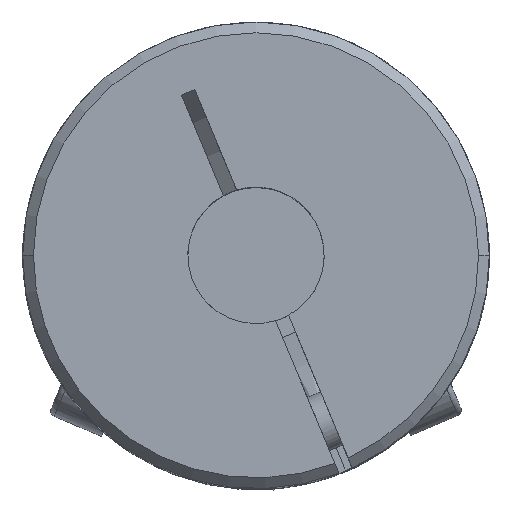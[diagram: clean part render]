
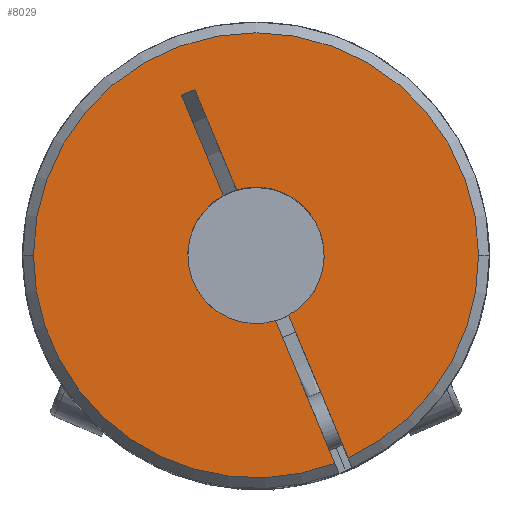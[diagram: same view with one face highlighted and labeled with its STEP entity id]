
A CAD part, top view. The second image highlights one B-rep face of the part: STEP entity #8029.
In plain terms, the highlighted planar face has unit normal (0, 0, 1).
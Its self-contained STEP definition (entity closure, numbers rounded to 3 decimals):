
#2645=CARTESIAN_POINT('',(0.,0.,45.04));
#2646=DIRECTION('',(0.,0.,-1.));
#2647=DIRECTION('',(0.285,-0.959,0.));
#2648=AXIS2_PLACEMENT_3D('',#2645,#2646,#2647);
#2657=CARTESIAN_POINT('',(0.,0.,45.04));
#2658=DIRECTION('',(0.,0.,-1.));
#2659=DIRECTION('',(-0.285,0.959,0.));
#2660=AXIS2_PLACEMENT_3D('',#2657,#2658,#2659);
#2703=DIRECTION('',(0.384,-0.923,0.));
#2704=VECTOR('',#2703,21.537);
#2705=CARTESIAN_POINT('',(4.554,-8.338,45.04));
#2706=LINE('',#2705,#2704);
#2707=DIRECTION('',(0.384,-0.923,0.));
#2708=VECTOR('',#2707,15.139);
#2709=CARTESIAN_POINT('',(-8.524,23.082,45.04));
#2710=LINE('',#2709,#2708);
#2824=CARTESIAN_POINT('',(0.,0.,45.04));
#2825=DIRECTION('',(0.,0.,-1.));
#2826=DIRECTION('',(0.354,-0.935,0.));
#2827=AXIS2_PLACEMENT_3D('',#2824,#2825,#2826);
#2829=CARTESIAN_POINT('',(0.,0.,45.04));
#2830=DIRECTION('',(0.,0.,-1.));
#2831=DIRECTION('',(-1.,0.,0.));
#2832=AXIS2_PLACEMENT_3D('',#2829,#2830,#2831);
#2834=CARTESIAN_POINT('',(0.,0.,45.04));
#2835=DIRECTION('',(0.,0.,1.));
#2836=DIRECTION('',(0.414,-0.91,0.));
#2837=AXIS2_PLACEMENT_3D('',#2834,#2835,#2836);
#2839=DIRECTION('',(0.923,0.384,0.));
#2840=VECTOR('',#2839,2.);
#2841=CARTESIAN_POINT('',(-10.371,22.314,45.04));
#2842=LINE('',#2841,#2840);
#2862=DIRECTION('',(-0.384,0.923,0.));
#2863=VECTOR('',#2862,21.537);
#2864=CARTESIAN_POINT('',(10.983,-28.989,45.04));
#2865=LINE('',#2864,#2863);
#2866=DIRECTION('',(-0.384,0.923,0.));
#2867=VECTOR('',#2866,15.139);
#2868=CARTESIAN_POINT('',(-4.554,8.338,45.04));
#2869=LINE('',#2868,#2867);
#3365=CARTESIAN_POINT('',(10.983,-28.989,45.04));
#4352=CARTESIAN_POINT('',(-10.371,22.314,45.04));
#4353=CARTESIAN_POINT('',(-8.524,23.082,45.04));
#4354=VERTEX_POINT('',#4352);
#4355=VERTEX_POINT('',#4353);
#4578=CARTESIAN_POINT('',(31.,0.,45.04));
#4579=VERTEX_POINT('',#4578);
#4580=CARTESIAN_POINT('',(-31.,0.,
45.04));
#4581=VERTEX_POINT('',#4580);
#4584=VERTEX_POINT('',#3365);
#4791=CARTESIAN_POINT('',(12.829,-28.221,45.04));
#4792=VERTEX_POINT('',#4791);
#5165=CARTESIAN_POINT('',(4.554,-8.338,45.04));
#5167=VERTEX_POINT('',#5165);
#5169=CARTESIAN_POINT('',(2.707,-9.106,45.04));
#5171=VERTEX_POINT('',#5169);
#5172=CARTESIAN_POINT('',(-4.554,8.338,45.04));
#5173=VERTEX_POINT('',#5172);
#5174=CARTESIAN_POINT('',(-2.707,9.106,45.04));
#5175=VERTEX_POINT('',#5174);
#8008=CARTESIAN_POINT('',(0.,0.,45.04));
#8009=DIRECTION('',(0.,0.,1.));
#8010=DIRECTION('',(1.,0.,0.));
#8011=AXIS2_PLACEMENT_3D('',#8008,#8009,#8010);
#8012=PLANE('',#8011);
#8013=ORIENTED_EDGE('',*,*,#7806,.F.);
#8015=ORIENTED_EDGE('',*,*,#8014,.F.);
#8017=ORIENTED_EDGE('',*,*,#8016,.T.);
#8018=ORIENTED_EDGE('',*,*,#7999,.T.);
#8019=ORIENTED_EDGE('',*,*,#7989,.F.);
#8020=ORIENTED_EDGE('',*,*,#7847,.F.);
#8021=ORIENTED_EDGE('',*,*,#7814,.F.);
#8022=ORIENTED_EDGE('',*,*,#7868,.F.);
#8024=ORIENTED_EDGE('',*,*,#8023,.F.);
#8026=ORIENTED_EDGE('',*,*,#8025,.F.);
#8027=EDGE_LOOP('',(#8013,#8015,#8017,#8018,#8019,#8020,#8021,#8022,#8024,
#8026));
#8028=FACE_OUTER_BOUND('',#8027,.F.);
#2649=CIRCLE('',#2648,9.5);
#2661=CIRCLE('',#2660,9.5);
#2828=CIRCLE('',#2827,31.);
#2833=CIRCLE('',#2832,31.);
#2838=CIRCLE('',#2837,31.);
#7806=EDGE_CURVE('',#5171,#5173,#2649,.T.);
#7814=EDGE_CURVE('',#5175,#5167,#2661,.T.);
#7847=EDGE_CURVE('',#5167,#4792,#2706,.T.);
#7868=EDGE_CURVE('',#4355,#5175,#2710,.T.);
#7989=EDGE_CURVE('',#4792,#4579,#2838,.T.);
#7999=EDGE_CURVE('',#4581,#4579,#2833,.T.);
#8014=EDGE_CURVE('',#4584,#5171,#2865,.T.);
#8016=EDGE_CURVE('',#4584,#4581,#2828,.T.);
#8023=EDGE_CURVE('',#4354,#4355,#2842,.T.);
#8025=EDGE_CURVE('',#5173,#4354,#2869,.T.);
#8029=ADVANCED_FACE('',(#8028),#8012,.T.);
